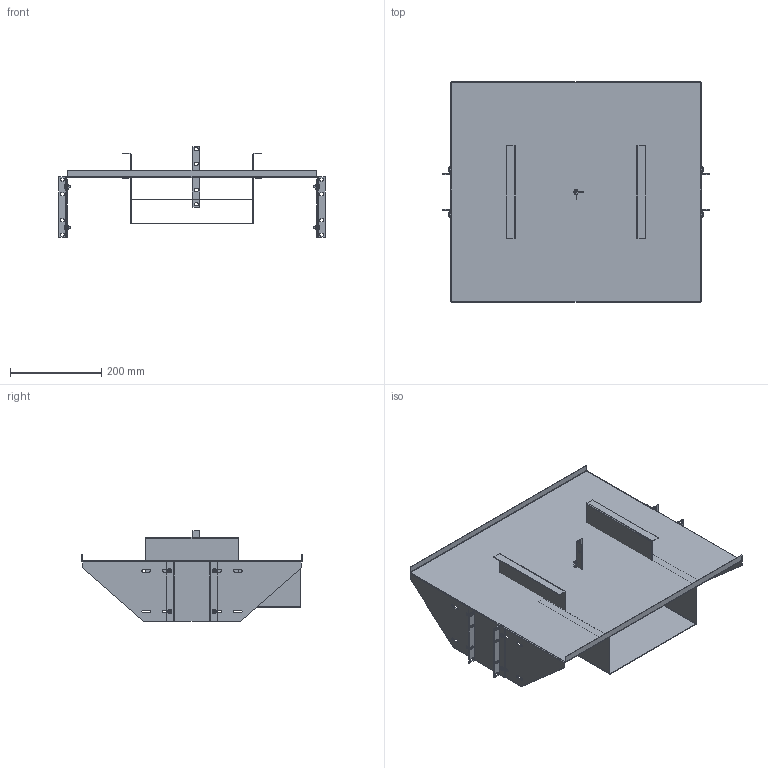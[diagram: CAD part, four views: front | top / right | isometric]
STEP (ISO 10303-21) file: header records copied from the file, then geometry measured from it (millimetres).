
FILE_DESCRIPTION( ( 'Unknown' ), '1' );
FILE_NAME( 'Q:/ACCESSORIES/SHELVES/DNR/WEB DRAWINGS/STEP/DNRMM23.stp', 'Unknown', ( 'Unknown' ), ( 'Unknown' ), 'PSStep 10.1', 'Unknown', ' ' );
FILE_SCHEMA( ( 'AUTOMOTIVE_DESIGN { 1 0 10303 214 1 1 1 1 }' ) );
Length unit declared in the file: millimetre
Products named in the file (6): Assem1; COM54788; COM54789; NTS17050; SCS18970; COM54800
Bounding box: 584.2 x 482.6 x 198.81 mm (x, y, z)
Volume: 1406903.6 mm3; surface area: 1959108.6 mm2
Topology: 27 solids, 27 shells, 641 faces, 1703 edges, 1125 vertices
Faces by surface type: plane 431, cylinder 183, torus 27
Full cylindrical faces by diameter (mm): 3.967 x9, 4.826 x9, 5.41 x10, 9.322 x9
Entity records: 7029 total; most frequent: CARTESIAN_POINT 1034, DIRECTION 998, ORIENTED_EDGE 940, EDGE_CURVE 470, LINE 334, VECTOR 334, AXIS2_PLACEMENT_3D 332, VERTEX_POINT 312
